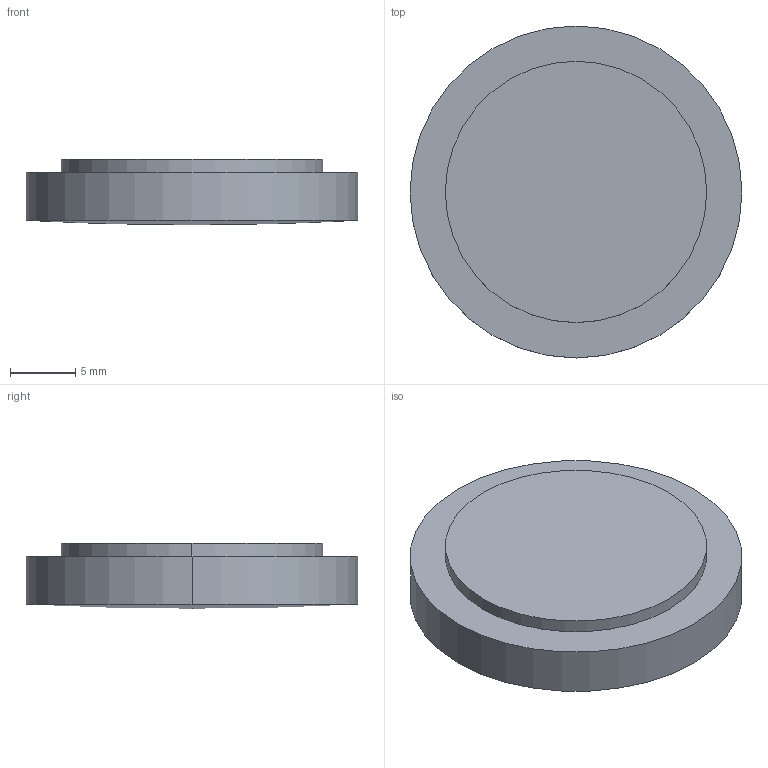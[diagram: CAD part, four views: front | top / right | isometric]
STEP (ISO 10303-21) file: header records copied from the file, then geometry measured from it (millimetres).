
FILE_DESCRIPTION(('STEP AP214'),'1');
FILE_NAME('LLR-25610.STEP','2020-03-09T17:42:00',(' '),(' '),'Spatial InterOp 3D',' ',' ');
FILE_SCHEMA(('AUTOMOTIVE_DESIGN { 1 0 10303 214 1 1 1 1 }'));
Length unit declared in the file: millimetre
Products named in the file (1): 1
Bounding box: 25.4 x 25.4 x 5 mm (x, y, z)
Volume: 2259 mm3; surface area: 1998.3 mm2
Topology: 2 solids, 2 shells, 9 faces, 16 edges, 9 vertices
Faces by surface type: cylinder 4, plane 3, sphere 2
Entity records: 229 total; most frequent: DIRECTION 46, CARTESIAN_POINT 34, ORIENTED_EDGE 28, AXIS2_PLACEMENT_3D 21, EDGE_CURVE 14, CIRCLE 10, ADVANCED_FACE 9, FACE_OUTER_BOUND 9
